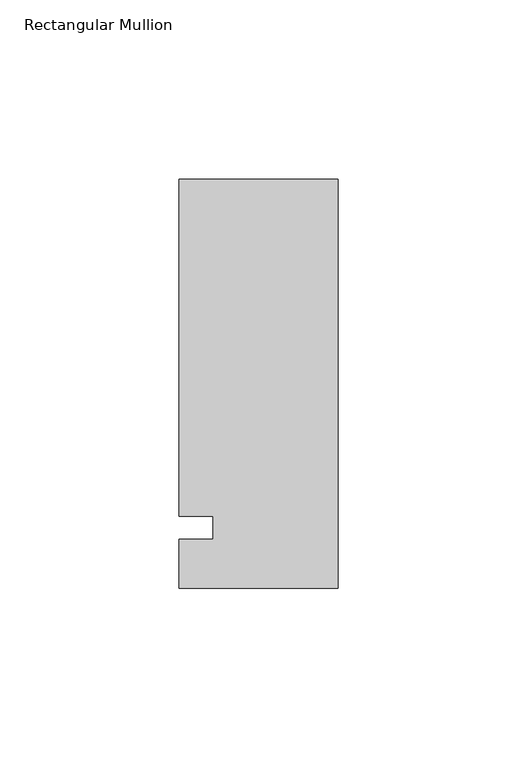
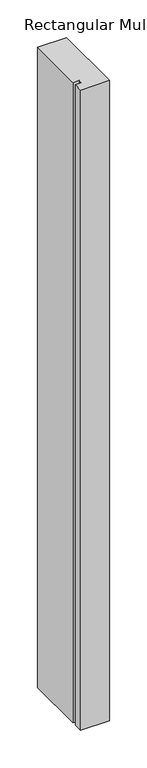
"""IFC4 building model written with IfcOpenShell, lengths in millimetres: member geometry, Rectangular Mullion : Kawneer-TRIFAB_VG_450_BACK_SB_Sill."""

from ifc_helpers import new_model, si_unit, frame, origin, place, context, project, spatial, polyline, outline, extrude, source, transform, mapped, element, save


def rectangular_mullion_973b460d(model_context):
    return source(origin(), model_context, "Body", "SweptSolid", [
        extrude(outline(polyline([(-44.45, -16.8840492), (-44.45, -3.175), (-34.925, -3.175), (-34.925, 3.175), (-44.45, 3.175), (-44.45, 97.4159508), (0.0, 97.4159508), (0.0, -16.8840492), (-44.45, -16.8840492)])), frame((0.0, 0.0, -1038.0919461), z_axis=(0.0, 0.0, 1.0), x_axis=(1.0, 0.0, 0.0)), (0.0, 0.0, 1.0), 1038.0919461),
    ])


if __name__ == "__main__":
    model = new_model("IFC4")
    model_context = context("Model", 3, world=origin())
    ifc_project = project(units=[si_unit("LENGTHUNIT", "METRE", prefix="MILLI")], contexts=[model_context])
    site = spatial("IfcSite", under=ifc_project)
    building = spatial("IfcBuilding", under=site)
    placement = place(None, origin())
    rectangular_mullion_shape = rectangular_mullion_973b460d(model_context)
    element("IfcMember", 1, ObjectType="Rectangular Mullion : Kawneer-TRIFAB_VG_450_BACK_SB_Sill", at=placement, inside=building, context=model_context, shape_type="MappedRepresentation", body=[
        mapped(rectangular_mullion_shape, transform((0.0, 0.0, 0.0), x_axis=(1.0, 0.0, 0.0), y_axis=(0.0, 1.0, 0.0), z_axis=(0.0, 0.0, 1.0))),
    ])
    save(model, "model.ifc")
